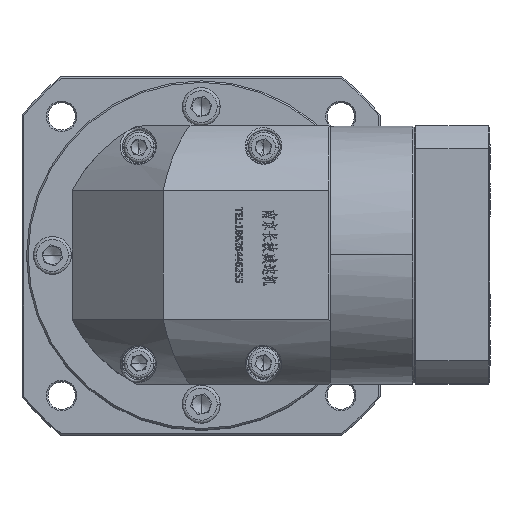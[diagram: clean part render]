
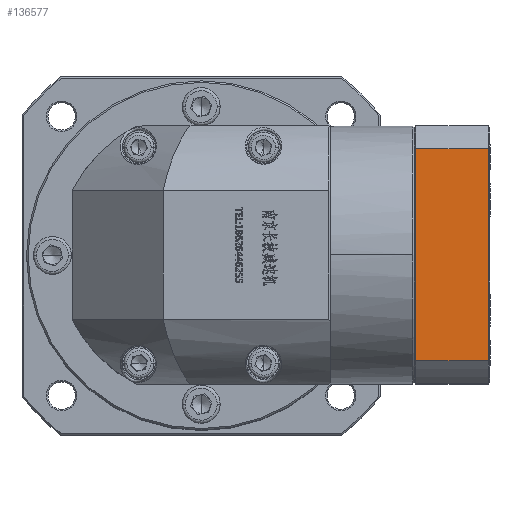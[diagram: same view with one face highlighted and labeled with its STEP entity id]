
A CAD part, top view. The second image highlights one B-rep face of the part: STEP entity #136577.
In plain terms, the highlighted planar face has unit normal (0, 0, 1).
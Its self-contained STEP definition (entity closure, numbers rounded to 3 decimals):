
#3769 = EDGE_LOOP ( 'NONE', ( #144148, #32915, #127430, #100993 ) ) ;
#8864 = VECTOR ( 'NONE', #117095, 1000. ) ;
#18601 = FACE_OUTER_BOUND ( 'NONE', #3769, .T. ) ;
#18699 = AXIS2_PLACEMENT_3D ( 'NONE', #165930, #45355, #140353 ) ;
#19950 = VECTOR ( 'NONE', #40147, 1000. ) ;
#30979 = CARTESIAN_POINT ( 'NONE',  ( 118.42, 174.691, 57.494 ) ) ;
#32014 = VECTOR ( 'NONE', #49559, 1000. ) ;
#32915 = ORIENTED_EDGE ( 'NONE', *, *, #108373, .F. ) ;
#39595 = VERTEX_POINT ( 'NONE', #109359 ) ;
#40147 = DIRECTION ( 'NONE',  ( 1., 0., 0. ) ) ;
#45355 = DIRECTION ( 'NONE',  ( 0., 0., -1. ) ) ;
#47217 = VERTEX_POINT ( 'NONE', #30979 ) ;
#49133 = DIRECTION ( 'NONE',  ( 0., -1., 0. ) ) ;
#49559 = DIRECTION ( 'NONE',  ( -1., 0., 0. ) ) ;
#51049 = CARTESIAN_POINT ( 'NONE',  ( 94.42, 104.87, 57.494 ) ) ;
#62407 = CARTESIAN_POINT ( 'NONE',  ( 118.42, 104.87, 57.494 ) ) ;
#90030 = CARTESIAN_POINT ( 'NONE',  ( 118.92, 104.87, 57.494 ) ) ;
#91614 = LINE ( 'NONE', #90030, #32014 ) ;
#100993 = ORIENTED_EDGE ( 'NONE', *, *, #127975, .F. ) ;
#102331 = CARTESIAN_POINT ( 'NONE',  ( 94.42, 104.87, 57.494 ) ) ;
#102676 = VERTEX_POINT ( 'NONE', #62407 ) ;
#104759 = VECTOR ( 'NONE', #49133, 1000. ) ;
#107237 = CARTESIAN_POINT ( 'NONE',  ( 118.92, 174.691, 57.494 ) ) ;
#108373 = EDGE_CURVE ( 'NONE', #39595, #47217, #166672, .T. ) ;
#109359 = CARTESIAN_POINT ( 'NONE',  ( 94.42, 174.691, 57.494 ) ) ;
#117095 = DIRECTION ( 'NONE',  ( 0., -1., 0. ) ) ;
#117206 = LINE ( 'NONE', #102331, #8864 ) ;
#117366 = CARTESIAN_POINT ( 'NONE',  ( 118.42, 104.87, 57.494 ) ) ;
#127430 = ORIENTED_EDGE ( 'NONE', *, *, #167481, .T. ) ;
#127975 = EDGE_CURVE ( 'NONE', #102676, #165263, #91614, .T. ) ;
#136577 = ADVANCED_FACE ( 'NONE', ( #18601 ), #138625, .F. ) ;
#138625 = PLANE ( 'NONE',  #18699 ) ;
#140353 = DIRECTION ( 'NONE',  ( -1., 0., 0. ) ) ;
#140860 = LINE ( 'NONE', #117366, #104759 ) ;
#144148 = ORIENTED_EDGE ( 'NONE', *, *, #149009, .F. ) ;
#149009 = EDGE_CURVE ( 'NONE', #47217, #102676, #140860, .T. ) ;
#165263 = VERTEX_POINT ( 'NONE', #51049 ) ;
#165930 = CARTESIAN_POINT ( 'NONE',  ( 118.92, 104.87, 57.494 ) ) ;
#166672 = LINE ( 'NONE', #107237, #19950 ) ;
#167481 = EDGE_CURVE ( 'NONE', #39595, #165263, #117206, .T. ) ;
